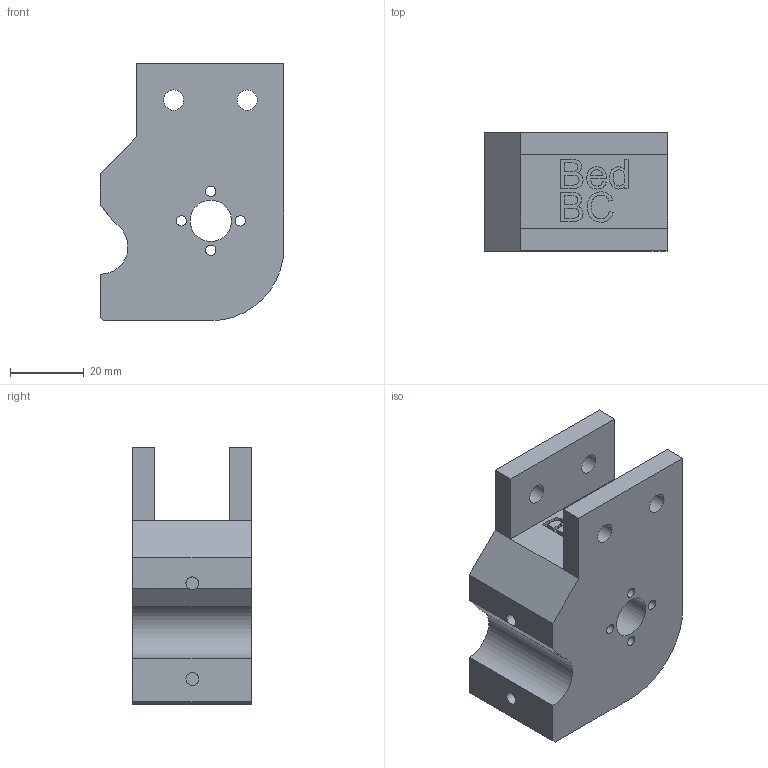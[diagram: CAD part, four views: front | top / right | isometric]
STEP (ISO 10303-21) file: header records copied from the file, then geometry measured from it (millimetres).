
FILE_DESCRIPTION(/* description */ (''),/* implementation_level */ '2;1');
FILE_NAME(/* name */ 'BC Z to Bed v4.step',/* time_stamp */ '2023-03-23T06:35:18-06:00',/* author */ (''),/* organization */ (''),/* preprocessor_version */ 'ST-DEVELOPER v19.2',/* originating_system */ 'Autodesk Translation Framework v11.17.0.187',/* authorisation */ '');
FILE_SCHEMA (('AUTOMOTIVE_DESIGN { 1 0 10303 214 3 1 1 }'));
Length unit declared in the file: millimetre
Products named in the file (2): BC Z to Bed; BC Z to Bed 1
Assembly tree (1 placements, depth 2):
  BC Z to Bed
    BC Z to Bed 1
Bounding box: 50 x 32.2 x 70 mm (x, y, z)
Volume: 77011.2 mm3; surface area: 17772.4 mm2
Topology: 1 solids, 1 shells, 188 faces, 514 edges, 342 vertices
Faces by surface type: bspline 102, plane 71, cylinder 15
Full cylindrical faces by diameter (mm): 2.8 x4, 3.5 x4, 5.5 x4, 11.25 x1
Entity records: 6978 total; most frequent: CARTESIAN_POINT 2781, ORIENTED_EDGE 1028, DIRECTION 520, EDGE_CURVE 514, VERTEX_POINT 342, LINE 278, VECTOR 278, EDGE_LOOP 224
